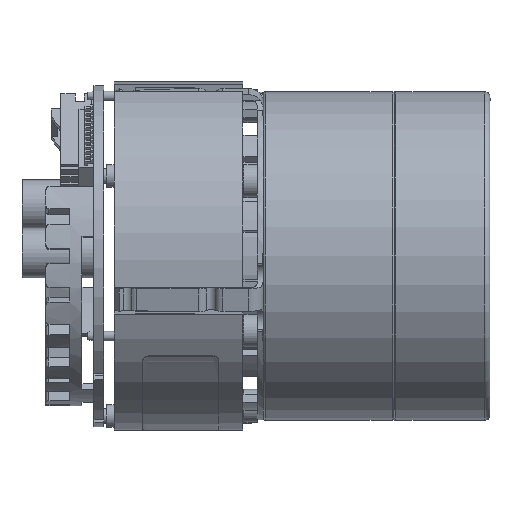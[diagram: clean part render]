
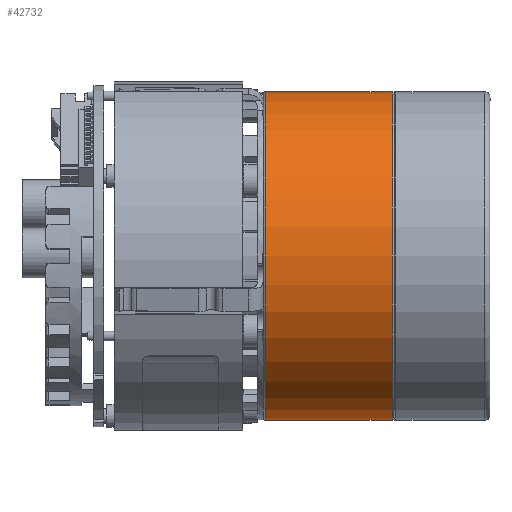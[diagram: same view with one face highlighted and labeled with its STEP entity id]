
A CAD part, front view. The second image highlights one B-rep face of the part: STEP entity #42732.
In plain terms, the highlighted cylindrical face has radius 27.4 mm (diameter 54.8 mm), a full revolution.
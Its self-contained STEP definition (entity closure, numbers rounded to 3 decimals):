
#90 = DIRECTION ( 'NONE',  ( 0., 0., -1. ) ) ;
#4109 = DIRECTION ( 'NONE',  ( -1., 0., 0. ) ) ;
#4435 = ORIENTED_EDGE ( 'NONE', *, *, #31541, .T. ) ;
#8194 = VERTEX_POINT ( 'NONE', #47594 ) ;
#8752 = ORIENTED_EDGE ( 'NONE', *, *, #26996, .T. ) ;
#10008 = CARTESIAN_POINT ( 'NONE',  ( 5.05, 0., 0. ) ) ;
#10679 = CARTESIAN_POINT ( 'NONE',  ( 26.175, 0., -27.4 ) ) ;
#13030 = DIRECTION ( 'NONE',  ( 0., 0., -1. ) ) ;
#13821 = CYLINDRICAL_SURFACE ( 'NONE', #46872, 27.4 ) ;
#17027 = FACE_OUTER_BOUND ( 'NONE', #29920, .T. ) ;
#24905 = CIRCLE ( 'NONE', #42834, 27.4 ) ;
#26996 = EDGE_CURVE ( 'NONE', #31006, #31006, #46087, .T. ) ;
#29229 = CARTESIAN_POINT ( 'NONE',  ( 26.175, 0., 0. ) ) ;
#29858 = CARTESIAN_POINT ( 'NONE',  ( 0., 0., 0. ) ) ;
#29920 = EDGE_LOOP ( 'NONE', ( #4435 ) ) ;
#31006 = VERTEX_POINT ( 'NONE', #10679 ) ;
#31541 = EDGE_CURVE ( 'NONE', #8194, #8194, #24905, .T. ) ;
#33309 = FACE_OUTER_BOUND ( 'NONE', #37501, .T. ) ;
#34933 = AXIS2_PLACEMENT_3D ( 'NONE', #29229, #4109, #90 ) ;
#37501 = EDGE_LOOP ( 'NONE', ( #8752 ) ) ;
#37553 = DIRECTION ( 'NONE',  ( 1., 0., 0. ) ) ;
#38086 = DIRECTION ( 'NONE',  ( 0., 0., 1. ) ) ;
#42732 = ADVANCED_FACE ( 'NONE', ( #17027, #33309 ), #13821, .T. ) ;
#42834 = AXIS2_PLACEMENT_3D ( 'NONE', #10008, #37553, #38086 ) ;
#46087 = CIRCLE ( 'NONE', #34933, 27.4 ) ;
#46872 = AXIS2_PLACEMENT_3D ( 'NONE', #29858, #49672, #13030 ) ;
#47594 = CARTESIAN_POINT ( 'NONE',  ( 5.05, 0., 27.4 ) ) ;
#49672 = DIRECTION ( 'NONE',  ( 1., 0., 0. ) ) ;
